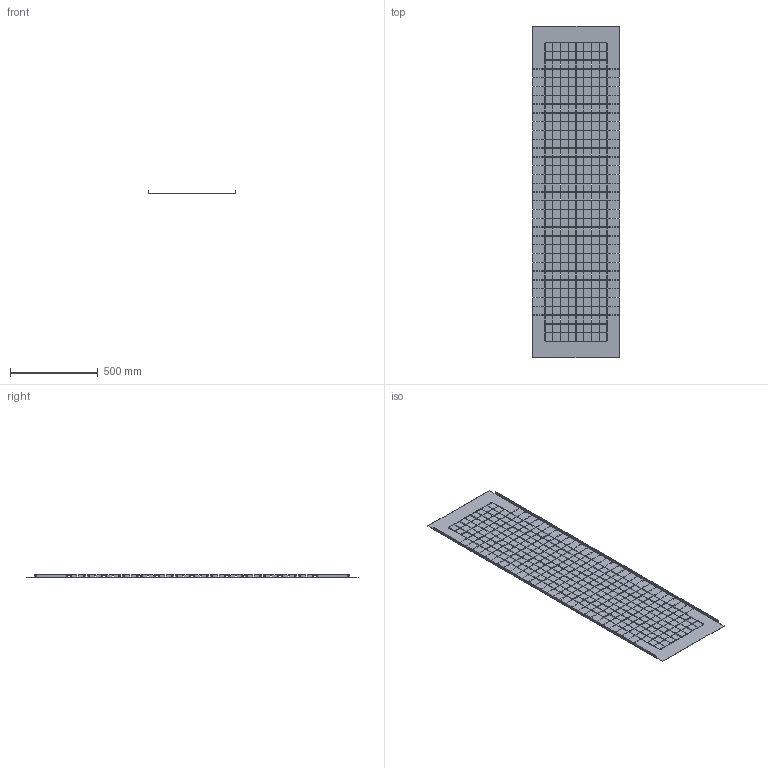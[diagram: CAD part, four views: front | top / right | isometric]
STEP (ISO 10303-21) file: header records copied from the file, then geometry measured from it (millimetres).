
FILE_DESCRIPTION (( 'STEP AP203' ), '1' );
FILE_NAME ('MA1.800.060620.03.01 Ïàíåëü âåðòèêàëüíàÿ äëÿ ñåêöèîíèðîâàíèÿ Ã600 Â2000 ìì EKF.STEP', '2024-12-02T14:03:37', ( '' ), ( '' ), 'SwSTEP 2.0', 'SolidWorks 2021', '' );
FILE_SCHEMA (( 'CONFIG_CONTROL_DESIGN' ));
Products named in the file (1): MA1.800.060620.03.01 Ïàíåëü âåðòèêàëüíàÿ äëÿ ñåêöèîíèðîâàíèÿ Ã600 Â2000 ìì EKF
Bounding box: 498 x 1888 x 16 mm (x, y, z)
Volume: 922787 mm3; surface area: 1915285.6 mm2
Topology: 1 solids, 1 shells, 3974 faces, 11436 edges, 7464 vertices
Faces by surface type: plane 3726, cylinder 248
Entity records: 131025 total; most frequent: CARTESIAN_POINT 22875, ORIENTED_EDGE 22872, DIRECTION 20186, EDGE_CURVE 11436, LINE 10636, VECTOR 10636, VERTEX_POINT 7464, EDGE_LOOP 5658
